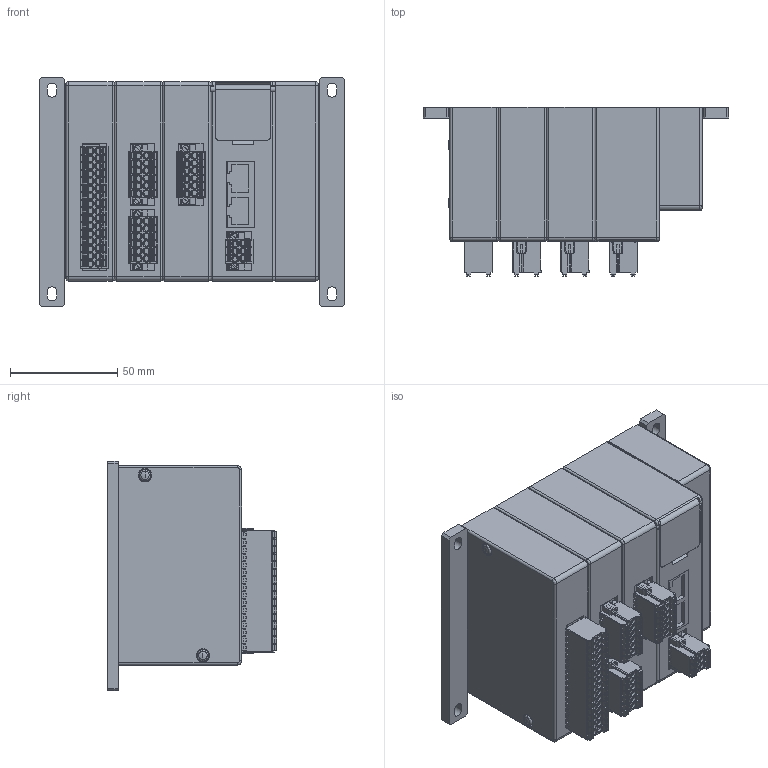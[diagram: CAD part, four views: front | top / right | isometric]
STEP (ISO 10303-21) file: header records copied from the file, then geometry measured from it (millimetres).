
FILE_DESCRIPTION( (''), '2;1');
FILE_NAME ('YS8EK3-3.stp','2022-12-02T08:37:02',(''),(''),'spGate 12.6.6','','');
FILE_SCHEMA (('AUTOMOTIVE_DESIGN'));
Length unit declared in the file: millimetre
Products named in the file (6): Assembly; YS8EK3-3-prt0; YS8EK3-3-prt1; YS8EK3-3-prt2; YS8EK3-3-prt3; YS8EK3-3-prt4
Assembly tree (6 placements, depth 2):
  Assembly
    YS8EK3-3-prt0  x2
    YS8EK3-3-prt1
    YS8EK3-3-prt2
    YS8EK3-3-prt3
    YS8EK3-3-prt4
Bounding box: 142.5 x 78.8 x 107 mm (x, y, z)
Volume: 664070.8 mm3; surface area: 117817.2 mm2
Topology: 6 solids, 6 shells, 4995 faces, 13034 edges, 8400 vertices
Faces by surface type: plane 3110, cylinder 1503, bspline 370, sphere 12
Entity records: 261450 total; most frequent: CARTESIAN_POINT 36504, ORIENTED_EDGE 25764, DIRECTION 24752, COLOUR_RGB 17824, PRESENTATION_STYLE_ASSIGNMENT 17824, STYLED_ITEM 17824, EDGE_CURVE 12882, DRAUGHTING_PRE_DEFINED_CURVE_FONT 12882
